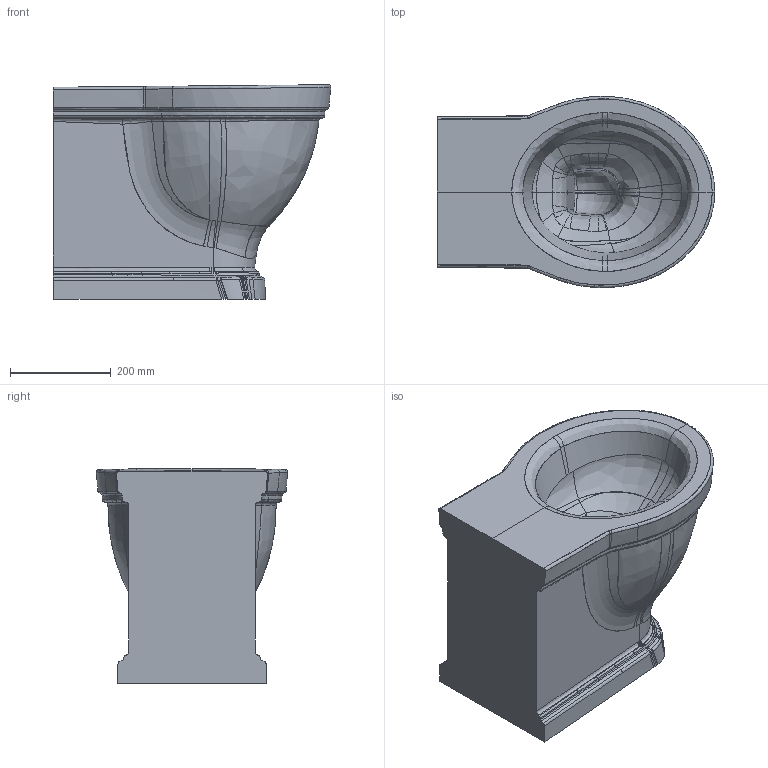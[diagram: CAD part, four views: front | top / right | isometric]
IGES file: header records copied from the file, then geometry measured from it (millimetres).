
Start section: START RECORD GO HERE.
Global section: file name: 8437_VASO ETHOS TERRA.igs; native system: DASSAULT SYSTEMES CATIA V5 R19 - www.3ds.com; preprocessor: CATIA Version 5 Release 19 SP 5 ; author: gioge; organization: LAPTOP-G94B6G74; date: 20200630.150605; units: millimetre
Bounding box: 549.52 x 379.13 x 424.95 mm (x, y, z)
Surface area: 1714492.9 mm2 (no closed solid volume)
Topology: 0 solids, 0 shells, 738 faces, 3760 edges, 3732 vertices
Faces by surface type: bspline 712, plane 12, extrusion 8, revolution 6
